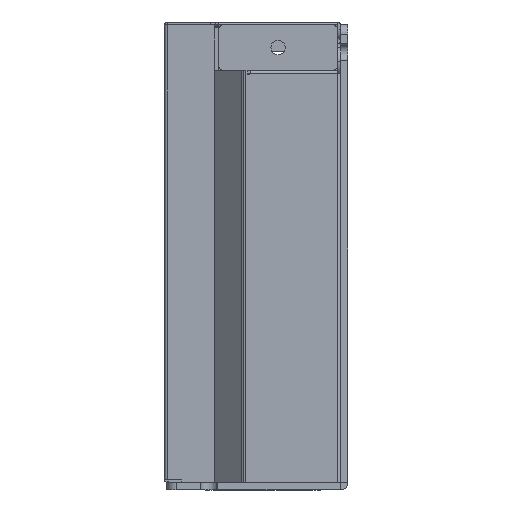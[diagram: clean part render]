
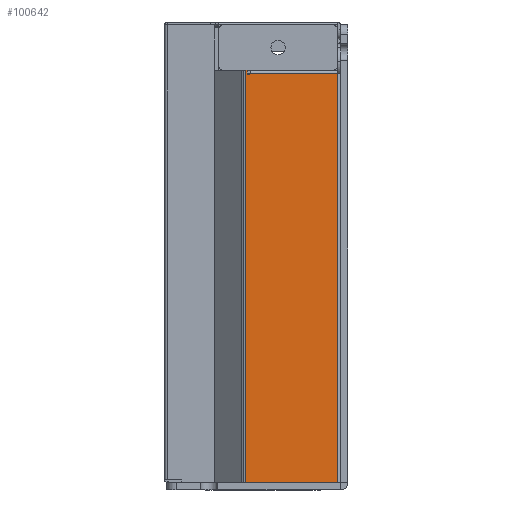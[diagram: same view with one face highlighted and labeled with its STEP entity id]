
A CAD part, left-side view. The second image highlights one B-rep face of the part: STEP entity #100642.
In plain terms, the highlighted planar face has unit normal (-1, 0, 0).
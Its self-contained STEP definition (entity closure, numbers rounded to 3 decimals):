
#30190=DIRECTION('',(0.,-1.,0.));
#30191=VECTOR('',#30190,85.5);
#30192=CARTESIAN_POINT('',(-87.45,47.65,-16.849));
#30193=LINE('',#30192,#30191);
#30212=DIRECTION('',(0.,0.,1.));
#30213=VECTOR('',#30212,19.051);
#30214=CARTESIAN_POINT('',(-87.45,47.65,-35.9));
#30215=LINE('',#30214,#30213);
#30219=DIRECTION('',(0.,0.,-1.));
#30220=VECTOR('',#30219,0.3);
#30221=CARTESIAN_POINT('',(-87.45,-37.85,-16.849));
#30222=LINE('',#30221,#30220);
#30226=DIRECTION('',(0.,1.,0.));
#30227=VECTOR('',#30226,0.6);
#30228=CARTESIAN_POINT('',(-87.45,-37.85,-17.149));
#30229=LINE('',#30228,#30227);
#30233=CARTESIAN_POINT('',(-87.45,-37.25,-17.449));
#30234=DIRECTION('',(-1.,0.,0.));
#30235=DIRECTION('',(0.,0.,1.));
#30236=AXIS2_PLACEMENT_3D('',#30233,#30234,#30235);
#30249=DIRECTION('',(0.,0.,-1.));
#30250=VECTOR('',#30249,18.151);
#30251=CARTESIAN_POINT('',(-87.45,-37.25,-17.749));
#30252=LINE('',#30251,#30250);
#30647=DIRECTION('',(0.,-1.,0.));
#30648=VECTOR('',#30647,84.9);
#30649=CARTESIAN_POINT('',(-87.45,47.65,-35.9));
#30650=LINE('',#30649,#30648);
#64789=CARTESIAN_POINT('',(-87.45,47.65,-35.9));
#64790=CARTESIAN_POINT('',(-87.45,47.65,-16.849));
#64791=VERTEX_POINT('',#64789);
#64792=VERTEX_POINT('',#64790);
#64811=CARTESIAN_POINT('',(-87.45,-37.85,-16.849));
#64812=VERTEX_POINT('',#64811);
#64815=CARTESIAN_POINT('',(-87.45,-37.85,-17.149));
#64816=CARTESIAN_POINT('',(-87.45,-37.25,-17.149));
#64817=VERTEX_POINT('',#64815);
#64818=VERTEX_POINT('',#64816);
#64819=CARTESIAN_POINT('',(-87.45,-37.25,-17.749));
#64820=VERTEX_POINT('',#64819);
#64833=CARTESIAN_POINT('',(-87.45,-37.25,-35.9));
#64834=VERTEX_POINT('',#64833);
#100623=CARTESIAN_POINT('',(-87.45,25.102,-16.6));
#100624=DIRECTION('',(1.,0.,0.));
#100625=DIRECTION('',(0.,-1.,0.));
#100626=AXIS2_PLACEMENT_3D('',#100623,#100624,#100625);
#100627=PLANE('',#100626);
#100629=ORIENTED_EDGE('',*,*,#100628,.T.);
#100631=ORIENTED_EDGE('',*,*,#100630,.F.);
#100633=ORIENTED_EDGE('',*,*,#100632,.T.);
#100634=ORIENTED_EDGE('',*,*,#100616,.T.);
#100635=ORIENTED_EDGE('',*,*,#100520,.T.);
#100637=ORIENTED_EDGE('',*,*,#100636,.T.);
#100639=ORIENTED_EDGE('',*,*,#100638,.T.);
#100640=EDGE_LOOP('',(#100629,#100631,#100633,#100634,#100635,#100637,#100639));
#100641=FACE_OUTER_BOUND('',#100640,.F.);
#30237=CIRCLE('',#30236,0.3);
#100520=EDGE_CURVE('',#64812,#64817,#30222,.T.);
#100616=EDGE_CURVE('',#64792,#64812,#30193,.T.);
#100628=EDGE_CURVE('',#64820,#64834,#30252,.T.);
#100630=EDGE_CURVE('',#64791,#64834,#30650,.T.);
#100632=EDGE_CURVE('',#64791,#64792,#30215,.T.);
#100636=EDGE_CURVE('',#64817,#64818,#30229,.T.);
#100638=EDGE_CURVE('',#64818,#64820,#30237,.T.);
#100642=ADVANCED_FACE('',(#100641),#100627,.F.);
